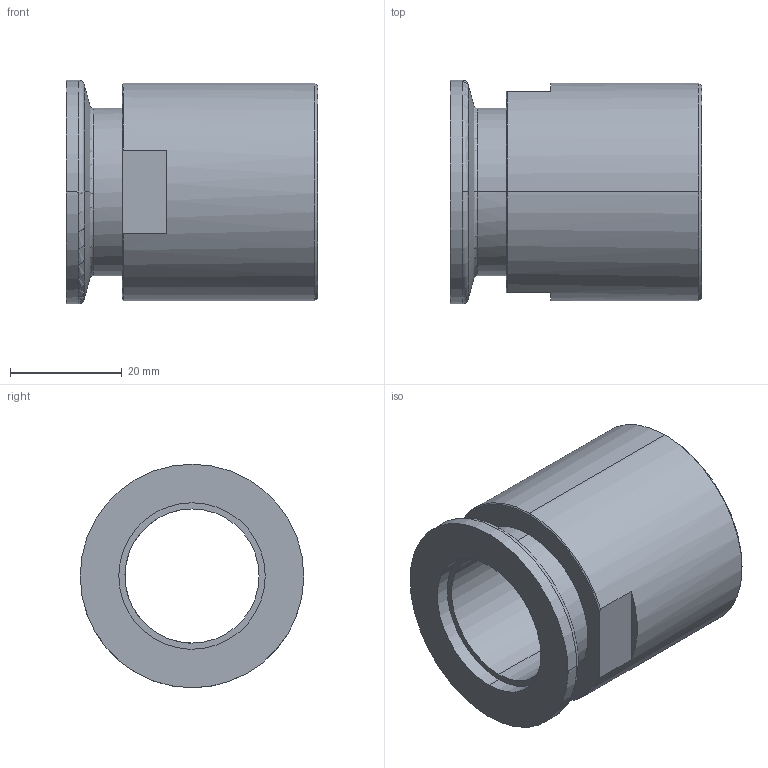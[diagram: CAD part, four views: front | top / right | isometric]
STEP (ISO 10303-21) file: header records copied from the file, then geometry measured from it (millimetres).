
FILE_DESCRIPTION((''),'2;1');
FILE_NAME('88427_ASM','2016-01-15T',('l0100062'),('Copyright by Leybold GmbH'),'PRO/ENGINEER BY PARAMETRIC TECHNOLOGY CORPORATION, 2015280','PRO/ENGINEER BY PARAMETRIC TECHNOLOGY CORPORATION, 2015280','');
FILE_SCHEMA(('AUTOMOTIVE_DESIGN { 1 0 10303 214 1 1 1 1 }'));
Length unit declared in the file: millimetre
Products named in the file (3): 88427_DN25_SCREW-ON_FLANGE_OUT_; MANIFOLD_SOLID_BREP_40; 88427_ASM
Assembly tree (2 placements, depth 2):
  88427_ASM
    88427_DN25_SCREW-ON_FLANGE_OUT_
    MANIFOLD_SOLID_BREP_40
Bounding box: 45 x 40 x 40 mm (x, y, z)
Volume: 23879.3 mm3; surface area: 13406.8 mm2
Topology: 2 solids, 2 shells, 44 faces, 120 edges, 84 vertices
Faces by surface type: cylinder 18, plane 12, cone 10, torus 4
Entity records: 2059 total; most frequent: DIRECTION 294, CARTESIAN_POINT 276, ORIENTED_EDGE 240, AXIS2_PLACEMENT_3D 129, PRESENTATION_STYLE_ASSIGNMENT 122, STYLED_ITEM 122, CURVE_STYLE 120, EDGE_CURVE 120
